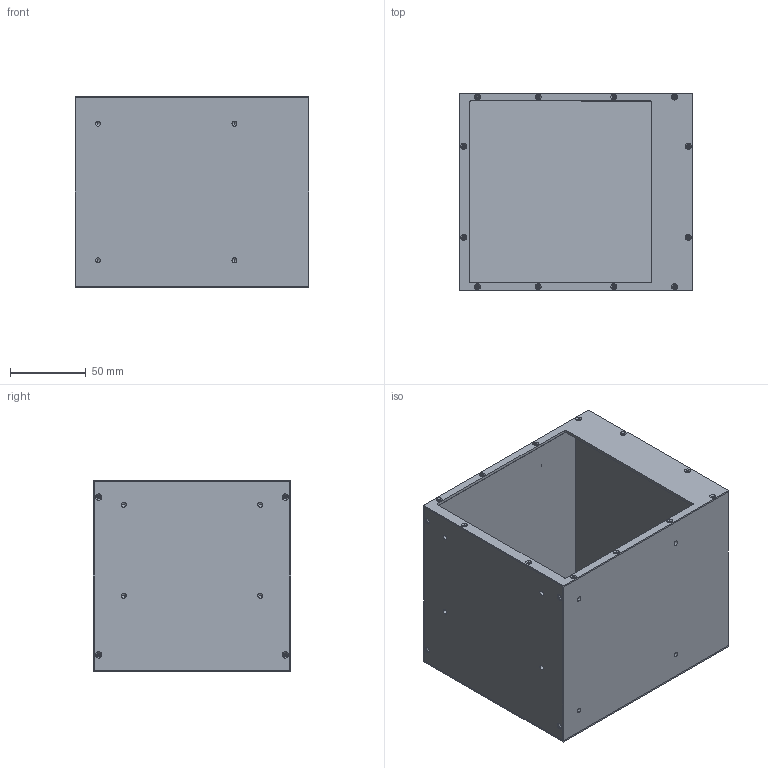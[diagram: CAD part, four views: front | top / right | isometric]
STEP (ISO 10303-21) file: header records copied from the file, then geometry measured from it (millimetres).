
FILE_DESCRIPTION (( 'STEP AP203' ), '1' );
FILE_NAME ('CKTZ120X120 肮粣嫖埭.STEP', '2025-09-16T05:47:58', ( '' ), ( '' ), 'SwSTEP 2.0', 'SolidWorks 2022', '' );
FILE_SCHEMA (( 'CONFIG_CONTROL_DESIGN' ));
Length unit declared in the file: millimetre
Products named in the file (11): CKTZ120X120-A02; CKTZ120X120-A06; CKTZ120X120-A04; 120X120 透明镜片; 120X120 灯珠板; 120X120 分光片; CKTZ120X120-A01; CKTZ120X120 同轴光源; 120X120 漫射板; CKTZ120X120-A03; CKTZ120X120-A05
Assembly tree (10 placements, depth 2):
  CKTZ120X120 同轴光源
    CKTZ120X120-A01
    CKTZ120X120-A02
    CKTZ120X120-A03
    CKTZ120X120-A04
    CKTZ120X120-A05
    CKTZ120X120-A06
    120X120 漫射板
    120X120 分光片
    120X120 透明镜片
    120X120 灯珠板
Bounding box: 154 x 130 x 126 mm (x, y, z)
Volume: 466421.2 mm3; surface area: 329224.8 mm2
Topology: 10 solids, 10 shells, 1492 faces, 3625 edges, 2328 vertices
Faces by surface type: plane 1190, cylinder 166, cone 136
Entity records: 43640 total; most frequent: CARTESIAN_POINT 7378, ORIENTED_EDGE 7090, DIRECTION 6937, EDGE_CURVE 3545, LINE 3163, VECTOR 3163, VERTEX_POINT 2328, AXIS2_PLACEMENT_3D 1887
